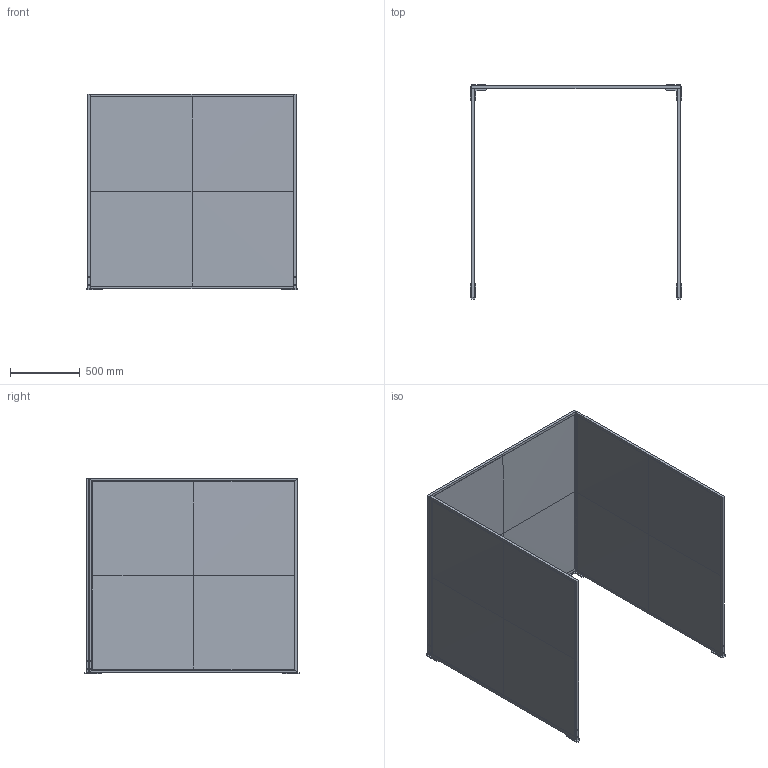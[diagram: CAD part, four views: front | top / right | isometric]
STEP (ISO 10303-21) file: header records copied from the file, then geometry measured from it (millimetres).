
FILE_DESCRIPTION(/* description */ (''),/* implementation_level */ '2;1');
FILE_NAME(/* name */ 'SL-WALL,UX',/* time_stamp */ '2021-10-22T15:10:50+02:00',/* author */ (''),/* organization */ (''),/* preprocessor_version */ 'ST-DEVELOPER v16.5',/* originating_system */ '',/* authorisation */ '');
FILE_SCHEMA (('CONFIG_CONTROL_DESIGN'));
Length unit declared in the file: millimetre
Products named in the file (1): Document
Bounding box: 1520 x 1540.75 x 1408 mm (x, y, z)
Volume: 202053.1 mm3; surface area: 13521544.5 mm2
Topology: 4 solids, 25 shells, 240 faces, 579 edges, 378 vertices
Faces by surface type: plane 196, bspline 24, cylinder 20
Entity records: 7249 total; most frequent: CARTESIAN_POINT 3111, ORIENTED_EDGE 1080, EDGE_CURVE 576, B_SPLINE_CURVE_WITH_KNOTS 514, VERTEX_POINT 374, EDGE_LOOP 264, ADVANCED_FACE 240, FACE_OUTER_BOUND 240
